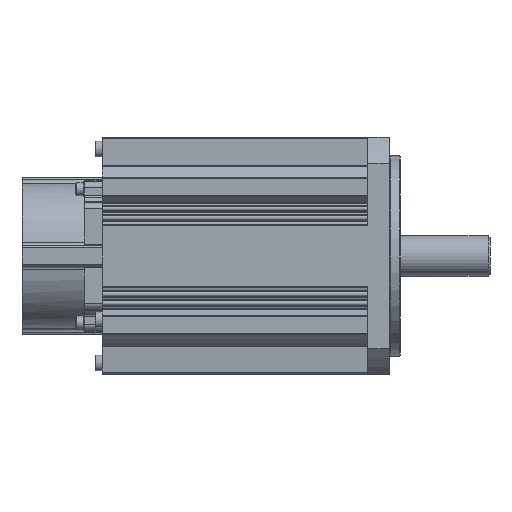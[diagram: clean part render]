
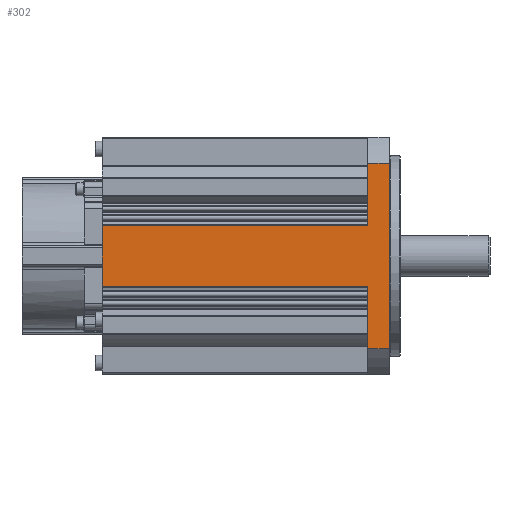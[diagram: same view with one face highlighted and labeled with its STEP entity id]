
A CAD part, front view. The second image highlights one B-rep face of the part: STEP entity #302.
In plain terms, the highlighted planar face has unit normal (0, -1, 0).
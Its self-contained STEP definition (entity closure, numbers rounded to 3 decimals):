
#302 = ADVANCED_FACE( '', ( #1114 ), #1115, .T. );
#1114 = FACE_OUTER_BOUND( '', #2333, .T. );
#1115 = PLANE( '', #2334 );
#2333 = EDGE_LOOP( '', ( #5109, #5110, #5111, #5112, #5113, #5114, #5115, #5116 ) );
#2334 = AXIS2_PLACEMENT_3D( '', #5117, #5118, #5119 );
#5109 = ORIENTED_EDGE( '', *, *, #7922, .F. );
#5110 = ORIENTED_EDGE( '', *, *, #8173, .T. );
#5111 = ORIENTED_EDGE( '', *, *, #8135, .F. );
#5112 = ORIENTED_EDGE( '', *, *, #8174, .F. );
#5113 = ORIENTED_EDGE( '', *, *, #7586, .F. );
#5114 = ORIENTED_EDGE( '', *, *, #7594, .T. );
#5115 = ORIENTED_EDGE( '', *, *, #8124, .T. );
#5116 = ORIENTED_EDGE( '', *, *, #7592, .F. );
#5117 = CARTESIAN_POINT( '', ( -157., -65., 50.806 ) );
#5118 = DIRECTION( '', ( 0., -1., 0. ) );
#5119 = DIRECTION( '', ( 0., 0., -1. ) );
#7586 = EDGE_CURVE( '', #9096, #9098, #9099, .T. );
#7592 = EDGE_CURVE( '', #9108, #9103, #9110, .T. );
#7594 = EDGE_CURVE( '', #9096, #9112, #9114, .T. );
#7922 = EDGE_CURVE( '', #9668, #9108, #9669, .T. );
#8124 = EDGE_CURVE( '', #9112, #9103, #10000, .T. );
#8135 = EDGE_CURVE( '', #10019, #10021, #10022, .T. );
#8173 = EDGE_CURVE( '', #9668, #10021, #10094, .T. );
#8174 = EDGE_CURVE( '', #9098, #10019, #10095, .T. );
#9096 = VERTEX_POINT( '', #11742 );
#9098 = VERTEX_POINT( '', #11744 );
#9099 = LINE( '', #11745, #11746 );
#9103 = VERTEX_POINT( '', #11750 );
#9108 = VERTEX_POINT( '', #11756 );
#9110 = LINE( '', #11758, #11759 );
#9112 = VERTEX_POINT( '', #11761 );
#9114 = LINE( '', #11763, #11764 );
#9668 = VERTEX_POINT( '', #12502 );
#9669 = LINE( '', #12503, #12504 );
#10000 = LINE( '', #12960, #12961 );
#10019 = VERTEX_POINT( '', #12981 );
#10021 = VERTEX_POINT( '', #12983 );
#10022 = LINE( '', #12984, #12985 );
#10094 = LINE( '', #13084, #13085 );
#10095 = LINE( '', #13086, #13087 );
#11742 = CARTESIAN_POINT( '', ( -12., -65., 16.424 ) );
#11744 = CARTESIAN_POINT( '', ( -12., -65., 50.806 ) );
#11745 = CARTESIAN_POINT( '', ( -12., -65., 50.806 ) );
#11746 = VECTOR( '', #14732, 1000. );
#11750 = CARTESIAN_POINT( '', ( -157., -65., -16.424 ) );
#11756 = CARTESIAN_POINT( '', ( -12., -65., -16.424 ) );
#11758 = CARTESIAN_POINT( '', ( -12., -65., -16.424 ) );
#11759 = VECTOR( '', #14746, 1000. );
#11761 = CARTESIAN_POINT( '', ( -157., -65., 16.424 ) );
#11763 = CARTESIAN_POINT( '', ( -12., -65., 16.424 ) );
#11764 = VECTOR( '', #14750, 1000. );
#12502 = CARTESIAN_POINT( '', ( -12., -65., -50.806 ) );
#12503 = CARTESIAN_POINT( '', ( -12., -65., 50.806 ) );
#12504 = VECTOR( '', #15364, 1000. );
#12960 = CARTESIAN_POINT( '', ( -157., -65., 50.806 ) );
#12961 = VECTOR( '', #15718, 1000. );
#12981 = CARTESIAN_POINT( '', ( 0., -65., 50.806 ) );
#12983 = CARTESIAN_POINT( '', ( 0., -65., -50.806 ) );
#12984 = CARTESIAN_POINT( '', ( 0., -65., 50.806 ) );
#12985 = VECTOR( '', #15747, 1000. );
#13084 = CARTESIAN_POINT( '', ( -157., -65., -50.806 ) );
#13085 = VECTOR( '', #15805, 1000. );
#13086 = CARTESIAN_POINT( '', ( -157., -65., 50.806 ) );
#13087 = VECTOR( '', #15806, 1000. );
#14732 = DIRECTION( '', ( 0., 0., 1. ) );
#14746 = DIRECTION( '', ( -1., 0., 0. ) );
#14750 = DIRECTION( '', ( -1., 0., 0. ) );
#15364 = DIRECTION( '', ( 0., 0., 1. ) );
#15718 = DIRECTION( '', ( 0., 0., -1. ) );
#15747 = DIRECTION( '', ( 0., 0., -1. ) );
#15805 = DIRECTION( '', ( 1., 0., 0. ) );
#15806 = DIRECTION( '', ( 1., 0., 0. ) );
